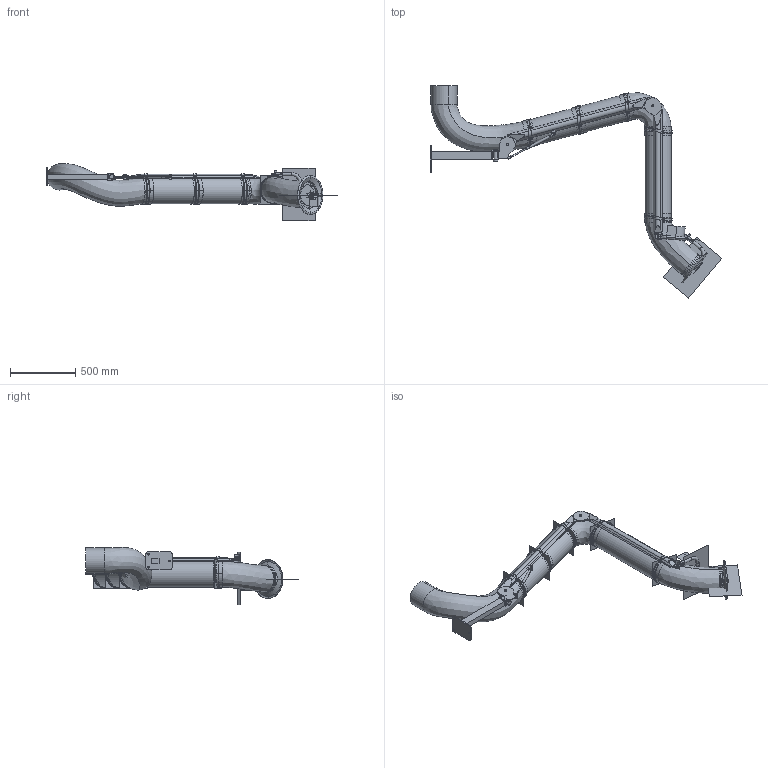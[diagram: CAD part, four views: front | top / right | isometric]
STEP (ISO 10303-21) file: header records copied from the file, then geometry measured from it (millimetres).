
FILE_DESCRIPTION((''),'2;1');
FILE_NAME('131016','2020-01-16T09:37:28',('Tomas Bellgran'),(''),'CREO PARAMETRIC BY PTC INC, 2018260','CREO PARAMETRIC BY PTC INC, 2018260','');
FILE_SCHEMA(('AUTOMOTIVE_DESIGN { 1 0 10303 214 1 1 1 1 }'));
Products named in the file (35): 131085_LIGHT; 131041; 131045_LIGHT; 131045; 144355; 131150; 139383; 131151; 131173; 144356; 131125_LIGHT; 131125; 131111_LIGHT; 131111; 130317; ROD_STAB_8-160-REF; 131095; 130322_AF24; 131145; 131131_AF0; 131134_AF0; 131139; 107526; 107546; 139617; 139618; 139616; 139615; 139614; 139620; SKRUVSATS_LITEN; SKRUVSATS_BIG; SKRUVSATS_LITEN-2; SKRUVSATS_BIGGEST; 131016
Assembly tree (54 placements, depth 3):
  131016
    131041
      131085_LIGHT
    131045
      131045_LIGHT
    144355  x4
    131150
    131173
      139383
      131151
    144356  x2
    131125
      131125_LIGHT
    131111
      131111_LIGHT
    130322_AF24
      130317
      ROD_STAB_8-160-REF
      131095  x2
    131145  x2
    131139  x5
      131131_AF0
      131134_AF0
    107526  x5
    107546
    139620
      139617  x3
      139618
      139616
      139615
      139614
    SKRUVSATS_LITEN  x2
    SKRUVSATS_BIG  x2
    SKRUVSATS_LITEN-2  x2
    SKRUVSATS_BIGGEST  x2
Bounding box: 2229.14 x 1623.53 x 436.54 mm (x, y, z)
Volume: 105462565 mm3; surface area: 4145017.6 mm2
Topology: 50 solids, 92 shells, 1232 faces, 2875 edges, 1779 vertices
Faces by surface type: cylinder 403, plane 358, bspline 326, torus 98, cone 34, extrusion 13
Entity records: 74370 total; most frequent: CARTESIAN_POINT 34656, POLYLINE 5532, DIRECTION 3709, ORIENTED_EDGE 2972, PRESENTATION_STYLE_ASSIGNMENT 2196, STYLED_ITEM 2153, CURVE_STYLE 1607, EDGE_CURVE 1581
